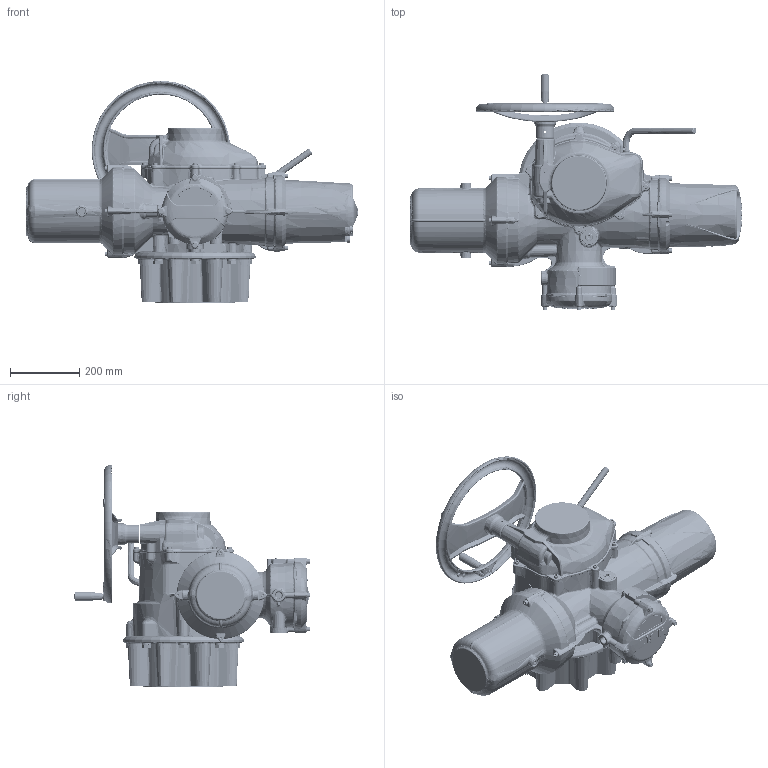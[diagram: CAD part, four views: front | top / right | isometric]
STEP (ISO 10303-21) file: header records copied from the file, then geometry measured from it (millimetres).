
FILE_DESCRIPTION( ( 'Unknown' ), '1' );
FILE_NAME( 'S:/Release/Datasheets for P.E/size45 models for website/II40_SHW_F30_B1-1.stp', 'Unknown', ( 'Unknown' ), ( 'Unknown' ), 'PSStep 15.0.49', 'Unknown', ' ' );
FILE_SCHEMA( ( 'AUTOMOTIVE_DESIGN { 1 0 10303 214 1 1 1 1 }' ) );
Length unit declared in the file: millimetre
Products named in the file (9): II45-01-std
Bounding box: 958.3 x 680.05 x 642 mm (x, y, z)
Volume: 916468.2 mm3; surface area: 2001299.1 mm2
Topology: 53 solids, 55 shells, 7021 faces, 17385 edges, 10262 vertices
Faces by surface type: bspline 2624, plane 1769, cylinder 994, torus 695, cone 594, sphere 198, extrusion 108, revolution 21, offset 18
Full cylindrical faces by diameter (mm): 1.152 x1, 3 x10, 3.5 x1, 6 x5, 6.45 x4, 6.47 x4, 6.5 x1, 6.647 x8, 7 x4, 7.6 x4, 8 x21, 8.1 x1, 8.2 x1, 8.3 x2, 8.376 x1, 8.5 x4, 9.7 x1, 10 x1, 12 x2, 12.1 x1, 13 x12, 13.25 x7, 13.548 x8, 13.55 x8, 16 x9, 16.75 x1, 17 x8, 17.294 x16, 18 x2, 20 x2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
Entity records: 701272 total; most frequent: CARTESIAN_POINT 503974, ORIENTED_EDGE 32798, DIRECTION 24337, EDGE_CURVE 16399, AXIS2_PLACEMENT_3D 10288, VERTEX_POINT 10000, EDGE_LOOP 7636, FACE_OUTER_BOUND 7290
